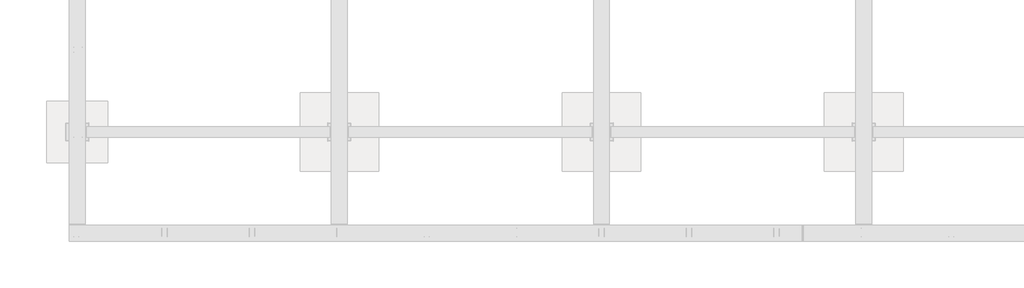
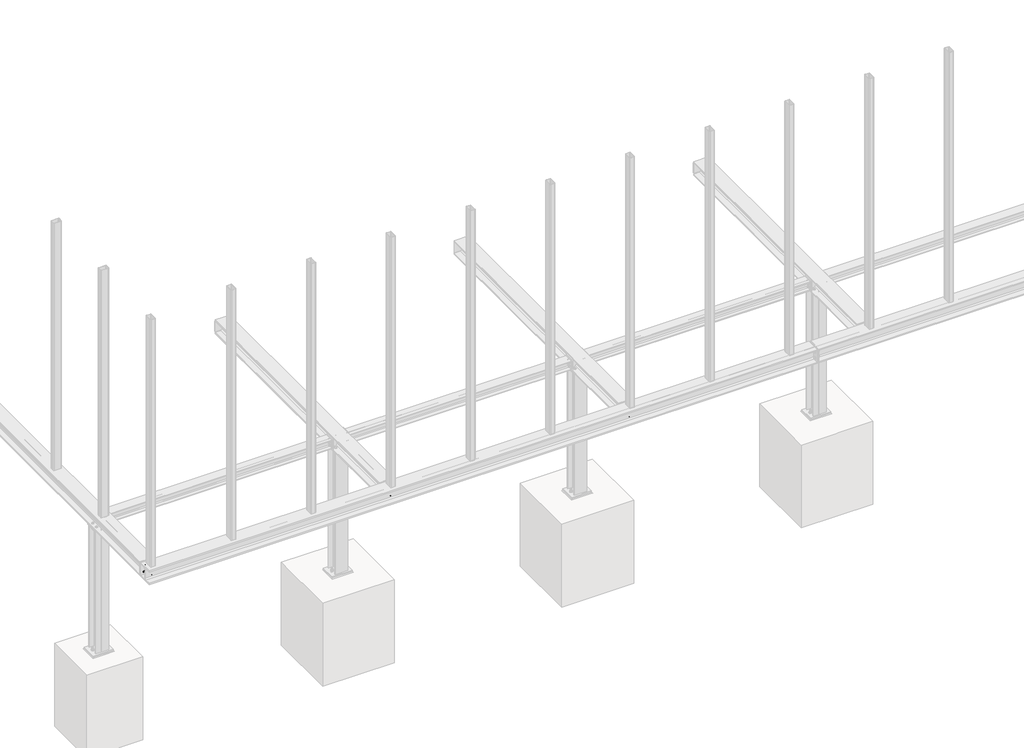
# One storey, part 20 of 31: 2 assemblies.
"""IFC4 building model written with IfcOpenShell, lengths in millimetres."""

from ifc_helpers import new_model, si_unit, point, frame, frame_2d, origin, place, context, project, spatial, polyline, circle_curve, trimmed, segment, composite_curve, outline, extrude, element, save

model = new_model("IFC4")

# Units and contexts
model_context = context("Model", 3, world=origin())
ifc_project = project(units=[si_unit("LENGTHUNIT", "METRE", prefix="MILLI")], contexts=[model_context])

# Site, building, storey
site = spatial("IfcSite", under=ifc_project)
building = spatial("IfcBuilding", under=site)
storey = spatial("IfcBuildingStorey", under=building, Name="Základy", Elevation=-1200.0)

# Assemblies
placement = place(None, origin())
element("IfcElementAssembly", 1, at=placement, inside=storey, context=model_context, shape_type="SweptSolid", body=[
    extrude(outline(composite_curve([segment(polyline([(5073.6, 60.0), (5026.4, 60.0)]), True, "CONTINUOUS"), segment(trimmed(circle_curve(frame_2d((5026.4, 66.4)), 6.4), [point((5026.4, 60.0))], [point((5020.0, 66.4))], False, "CARTESIAN"), True, "CONTINUOUS"), segment(polyline([(5020.0, 66.4), (5020.0, 153.6)]), True, "CONTINUOUS"), segment(trimmed(circle_curve(frame_2d((5026.4, 153.6)), 6.4), [point((5020.0, 153.6))], [point((5026.4, 160.0))], False, "CARTESIAN"), True, "CONTINUOUS"), segment(polyline([(5026.4, 160.0), (5073.6, 160.0)]), True, "CONTINUOUS"), segment(trimmed(circle_curve(frame_2d((5073.6, 153.6)), 6.4), [point((5073.6, 160.0))], [point((5080.0, 153.6))], False, "CARTESIAN"), True, "CONTINUOUS"), segment(polyline([(5080.0, 153.6), (5080.0, 66.4)]), True, "CONTINUOUS"), segment(trimmed(circle_curve(frame_2d((5073.6, 66.4)), 6.4), [point((5080.0, 66.4))], [point((5073.6, 60.0))], False, "CARTESIAN"), True, "CONTINUOUS")], self_intersect=False), holes=[composite_curve([segment(trimmed(circle_curve(frame_2d((5073.6, 66.4)), 3.2), [point((5073.6, 63.2))], [point((5076.8, 66.4))], True, "CARTESIAN"), True, "CONTINUOUS"), segment(polyline([(5076.8, 66.4), (5076.8, 153.6)]), True, "CONTINUOUS"), segment(trimmed(circle_curve(frame_2d((5073.6, 153.6)), 3.2), [point((5076.8, 153.6))], [point((5073.6, 156.8))], True, "CARTESIAN"), True, "CONTINUOUS"), segment(polyline([(5073.6, 156.8), (5026.4, 156.8)]), True, "CONTINUOUS"), segment(trimmed(circle_curve(frame_2d((5026.4, 153.6)), 3.2), [point((5026.4, 156.8))], [point((5023.2, 153.6))], True, "CARTESIAN"), True, "CONTINUOUS"), segment(polyline([(5023.2, 153.6), (5023.2, 66.4)]), True, "CONTINUOUS"), segment(trimmed(circle_curve(frame_2d((5026.4, 66.4)), 3.2), [point((5023.2, 66.4))], [point((5026.4, 63.2))], True, "CARTESIAN"), True, "CONTINUOUS"), segment(polyline([(5026.4, 63.2), (5073.6, 63.2)]), True, "CONTINUOUS")], self_intersect=False)]), frame((0.0, 0.0, -160.0), z_axis=(0.0, 0.0, 1.0), x_axis=(1.0, 0.0, 0.0)), (0.0, 0.0, 1.0), 3320.0),
])
element("IfcElementAssembly", 2, at=placement, inside=storey, context=model_context, shape_type="SweptSolid", body=[
    extrude(outline(composite_curve([segment(polyline([(10.0, -160.0), (190.0, -160.0), (190.0, -174.0), (119.25, -174.0)]), True, "CONTINUOUS"), segment(trimmed(circle_curve(frame_2d((119.25, -189.0)), 15.0), [point((119.25, -174.0))], [point((104.25, -189.0))], True, "CARTESIAN"), True, "CONTINUOUS"), segment(polyline([(104.25, -189.0), (104.25, -311.0)]), True, "CONTINUOUS"), segment(trimmed(circle_curve(frame_2d((119.25, -311.0)), 15.0), [point((104.25, -311.0))], [point((119.25, -326.0))], True, "CARTESIAN"), True, "CONTINUOUS"), segment(polyline([(119.25, -326.0), (190.0, -326.0), (190.0, -340.0), (10.0, -340.0), (10.0, -326.0), (80.75, -326.0)]), True, "CONTINUOUS"), segment(trimmed(circle_curve(frame_2d((80.75, -311.0)), 15.0), [point((80.75, -326.0))], [point((95.75, -311.0))], True, "CARTESIAN"), True, "CONTINUOUS"), segment(polyline([(95.75, -311.0), (95.75, -189.0)]), True, "CONTINUOUS"), segment(trimmed(circle_curve(frame_2d((80.75, -189.0)), 15.0), [point((95.75, -189.0))], [point((80.75, -174.0))], True, "CARTESIAN"), True, "CONTINUOUS"), segment(polyline([(80.75, -174.0), (10.0, -174.0), (10.0, -160.0)]), True, "CONTINUOUS")], self_intersect=False)), frame((-40.0, 0.0, 0.0), z_axis=(1.0, 0.0, 0.0), x_axis=(0.0, 1.0, 0.0)), (0.0, 0.0, 1.0), 8380.0),
    extrude(outline(composite_curve([segment(polyline([(190.0, -174.0), (190.0, -326.0), (124.25, -326.0)]), True, "CONTINUOUS"), segment(trimmed(circle_curve(frame_2d((104.25, -326.0)), 20.0), [point((124.25, -326.0))], [point((104.25, -306.0))], True, "CARTESIAN"), True, "CONTINUOUS"), segment(polyline([(104.25, -306.0), (104.25, -194.0)]), True, "CONTINUOUS"), segment(trimmed(circle_curve(frame_2d((104.25, -174.0)), 20.0), [point((104.25, -194.0))], [point((124.25, -174.0))], True, "CARTESIAN"), True, "CONTINUOUS"), segment(polyline([(124.25, -174.0), (190.0, -174.0)]), True, "CONTINUOUS")], self_intersect=False)), frame((3046.0, 0.0, 0.0), z_axis=(1.0, 0.0, 0.0), x_axis=(0.0, 1.0, 0.0)), (0.0, 0.0, 1.0), 8.0),
    extrude(outline(polyline([(2960.0, 200.0), (3140.0, 200.0), (3140.0, 190.0), (2960.0, 190.0), (2960.0, 200.0)])), frame((0.0, 0.0, -332.0), z_axis=(0.0, 0.0, 1.0), x_axis=(1.0, 0.0, 0.0)), (0.0, 0.0, 1.0), 164.0),
    extrude(outline(composite_curve([segment(polyline([(190.0, -174.0), (190.0, -326.0), (124.25, -326.0)]), True, "CONTINUOUS"), segment(trimmed(circle_curve(frame_2d((104.25, -326.0)), 20.0), [point((124.25, -326.0))], [point((104.25, -306.0))], True, "CARTESIAN"), True, "CONTINUOUS"), segment(polyline([(104.25, -306.0), (104.25, -194.0)]), True, "CONTINUOUS"), segment(trimmed(circle_curve(frame_2d((104.25, -174.0)), 20.0), [point((104.25, -194.0))], [point((124.25, -174.0))], True, "CARTESIAN"), True, "CONTINUOUS"), segment(polyline([(124.25, -174.0), (190.0, -174.0)]), True, "CONTINUOUS")], self_intersect=False)), frame((46.0, 0.0, 0.0), z_axis=(1.0, 0.0, 0.0), x_axis=(0.0, 1.0, 0.0)), (0.0, 0.0, 1.0), 8.0),
    extrude(outline(polyline([(-40.0, 200.0), (140.0, 200.0), (140.0, 190.0), (-40.0, 190.0), (-40.0, 200.0)])), frame((0.0, 0.0, -332.0), z_axis=(0.0, 0.0, 1.0), x_axis=(1.0, 0.0, 0.0)), (0.0, 0.0, 1.0), 164.0),
    extrude(outline(composite_curve([segment(polyline([(190.0, -174.0), (190.0, -326.0), (124.25, -326.0)]), True, "CONTINUOUS"), segment(trimmed(circle_curve(frame_2d((104.25, -326.0)), 20.0), [point((124.25, -326.0))], [point((104.25, -306.0))], True, "CARTESIAN"), True, "CONTINUOUS"), segment(polyline([(104.25, -306.0), (104.25, -194.0)]), True, "CONTINUOUS"), segment(trimmed(circle_curve(frame_2d((104.25, -174.0)), 20.0), [point((104.25, -194.0))], [point((124.25, -174.0))], True, "CARTESIAN"), True, "CONTINUOUS"), segment(polyline([(124.25, -174.0), (190.0, -174.0)]), True, "CONTINUOUS")], self_intersect=False)), frame((6046.0, 0.0, 0.0), z_axis=(1.0, 0.0, 0.0), x_axis=(0.0, 1.0, 0.0)), (0.0, 0.0, 1.0), 8.0),
    extrude(outline(polyline([(5960.0, 200.0), (6140.0, 200.0), (6140.0, 190.0), (5960.0, 190.0), (5960.0, 200.0)])), frame((0.0, 0.0, -332.0), z_axis=(0.0, 0.0, 1.0), x_axis=(1.0, 0.0, 0.0)), (0.0, 0.0, 1.0), 164.0),
    extrude(outline(polyline([(8350.0, 190.0), (8350.0, 10.0), (8340.0, 10.0), (8340.0, 190.0), (8350.0, 190.0)])), frame((0.0, 0.0, -332.0), z_axis=(0.0, 0.0, 1.0), x_axis=(1.0, 0.0, 0.0)), (0.0, 0.0, 1.0), 164.0),
    extrude(outline(composite_curve([segment(trimmed(circle_curve(frame_2d((-290.0, 3005.0)), 9.0), [point((-290.0, 3014.0))], [point((-290.0, 2996.0))], False, "CARTESIAN"), True, "CONTINUOUS"), segment(trimmed(circle_curve(frame_2d((-290.0, 3005.0)), 9.0), [point((-290.0, 2996.0))], [point((-290.0, 3014.0))], False, "CARTESIAN"), True, "CONTINUOUS")], self_intersect=False)), frame((0.0, 190.1, 0.0), z_axis=(0.0, 1.0, 0.0), x_axis=(0.0, 0.0, 1.0)), (0.0, 0.0, 1.0), 10.0),
    extrude(outline(polyline([(-290.0, 3018.8564065), (-278.0, 3011.9282032), (-278.0, 2998.0717968), (-290.0, 2991.1435935), (-302.0, 2998.0717968), (-302.0, 3011.9282032), (-290.0, 3018.8564065)])), frame((0.0, 177.0, 0.0), z_axis=(0.0, 1.0, 0.0), x_axis=(0.0, 0.0, 1.0)), (0.0, 0.0, 1.0), 10.0),
    extrude(outline(composite_curve([segment(trimmed(circle_curve(frame_2d((-290.0, 3005.0)), 8.0), [point((-290.0, 3013.0))], [point((-290.0, 2997.0))], False, "CARTESIAN"), True, "CONTINUOUS"), segment(trimmed(circle_curve(frame_2d((-290.0, 3005.0)), 8.0), [point((-290.0, 2997.0))], [point((-290.0, 3013.0))], False, "CARTESIAN"), True, "CONTINUOUS")], self_intersect=False)), frame((0.0, 187.0, 0.0), z_axis=(0.0, 1.0, 0.0), x_axis=(0.0, 0.0, 1.0)), (0.0, 0.0, 1.0), 50.0),
    extrude(outline(composite_curve([segment(trimmed(circle_curve(frame_2d((-290.0, 3005.0)), 15.0), [point((-290.0, 3020.0))], [point((-290.0, 2990.0))], False, "CARTESIAN"), True, "CONTINUOUS"), segment(trimmed(circle_curve(frame_2d((-290.0, 3005.0)), 15.0), [point((-290.0, 2990.0))], [point((-290.0, 3020.0))], False, "CARTESIAN"), True, "CONTINUOUS")], self_intersect=False)), frame((0.0, 187.0, 0.0), z_axis=(0.0, 1.0, 0.0), x_axis=(0.0, 0.0, 1.0)), (0.0, 0.0, 1.0), 3.0),
    extrude(outline(composite_curve([segment(trimmed(circle_curve(frame_2d((-290.0, 3005.0)), 15.0), [point((-290.0, 3020.0))], [point((-290.0, 2990.0))], False, "CARTESIAN"), True, "CONTINUOUS"), segment(trimmed(circle_curve(frame_2d((-290.0, 3005.0)), 15.0), [point((-290.0, 2990.0))], [point((-290.0, 3020.0))], False, "CARTESIAN"), True, "CONTINUOUS")], self_intersect=False)), frame((0.0, 210.0, 0.0), z_axis=(0.0, 1.0, 0.0), x_axis=(0.0, 0.0, 1.0)), (0.0, 0.0, 1.0), 3.0),
    extrude(outline(polyline([(-290.0, 3020.4441197), (-276.625, 3012.7220599), (-276.625, 2997.2779401), (-290.0, 2989.5558803), (-303.375, 2997.2779401), (-303.375, 3012.7220599), (-290.0, 3020.4441197)])), frame((0.0, 213.0, 0.0), z_axis=(0.0, 1.0, 0.0), x_axis=(0.0, 0.0, 1.0)), (0.0, 0.0, 1.0), 13.0),
    extrude(outline(composite_curve([segment(trimmed(circle_curve(frame_2d((-290.0, 3005.0)), 9.0), [point((-290.0, 3014.0))], [point((-290.0, 2996.0))], False, "CARTESIAN"), True, "CONTINUOUS"), segment(trimmed(circle_curve(frame_2d((-290.0, 3005.0)), 9.0), [point((-290.0, 2996.0))], [point((-290.0, 3014.0))], False, "CARTESIAN"), True, "CONTINUOUS")], self_intersect=False)), frame((0.0, 199.9, 0.0), z_axis=(0.0, 1.0, 0.0), x_axis=(0.0, 0.0, 1.0)), (0.0, 0.0, 1.0), 10.1),
    extrude(outline(composite_curve([segment(trimmed(circle_curve(frame_2d((-290.0, 3095.0)), 9.0), [point((-290.0, 3104.0))], [point((-290.0, 3086.0))], False, "CARTESIAN"), True, "CONTINUOUS"), segment(trimmed(circle_curve(frame_2d((-290.0, 3095.0)), 9.0), [point((-290.0, 3086.0))], [point((-290.0, 3104.0))], False, "CARTESIAN"), True, "CONTINUOUS")], self_intersect=False)), frame((0.0, 190.1, 0.0), z_axis=(0.0, 1.0, 0.0), x_axis=(0.0, 0.0, 1.0)), (0.0, 0.0, 1.0), 10.0),
    extrude(outline(polyline([(-290.0, 3108.8564065), (-278.0, 3101.9282032), (-278.0, 3088.0717968), (-290.0, 3081.1435935), (-302.0, 3088.0717968), (-302.0, 3101.9282032), (-290.0, 3108.8564065)])), frame((0.0, 177.0, 0.0), z_axis=(0.0, 1.0, 0.0), x_axis=(0.0, 0.0, 1.0)), (0.0, 0.0, 1.0), 10.0),
    extrude(outline(composite_curve([segment(trimmed(circle_curve(frame_2d((-290.0, 3095.0)), 8.0), [point((-290.0, 3103.0))], [point((-290.0, 3087.0))], False, "CARTESIAN"), True, "CONTINUOUS"), segment(trimmed(circle_curve(frame_2d((-290.0, 3095.0)), 8.0), [point((-290.0, 3087.0))], [point((-290.0, 3103.0))], False, "CARTESIAN"), True, "CONTINUOUS")], self_intersect=False)), frame((0.0, 187.0, 0.0), z_axis=(0.0, 1.0, 0.0), x_axis=(0.0, 0.0, 1.0)), (0.0, 0.0, 1.0), 50.0),
    extrude(outline(composite_curve([segment(trimmed(circle_curve(frame_2d((-290.0, 3095.0)), 15.0), [point((-290.0, 3110.0))], [point((-290.0, 3080.0))], False, "CARTESIAN"), True, "CONTINUOUS"), segment(trimmed(circle_curve(frame_2d((-290.0, 3095.0)), 15.0), [point((-290.0, 3080.0))], [point((-290.0, 3110.0))], False, "CARTESIAN"), True, "CONTINUOUS")], self_intersect=False)), frame((0.0, 187.0, 0.0), z_axis=(0.0, 1.0, 0.0), x_axis=(0.0, 0.0, 1.0)), (0.0, 0.0, 1.0), 3.0),
    extrude(outline(composite_curve([segment(trimmed(circle_curve(frame_2d((-290.0, 3095.0)), 15.0), [point((-290.0, 3110.0))], [point((-290.0, 3080.0))], False, "CARTESIAN"), True, "CONTINUOUS"), segment(trimmed(circle_curve(frame_2d((-290.0, 3095.0)), 15.0), [point((-290.0, 3080.0))], [point((-290.0, 3110.0))], False, "CARTESIAN"), True, "CONTINUOUS")], self_intersect=False)), frame((0.0, 210.0, 0.0), z_axis=(0.0, 1.0, 0.0), x_axis=(0.0, 0.0, 1.0)), (0.0, 0.0, 1.0), 3.0),
    extrude(outline(polyline([(-290.0, 3110.4441197), (-276.625, 3102.7220599), (-276.625, 3087.2779401), (-290.0, 3079.5558803), (-303.375, 3087.2779401), (-303.375, 3102.7220599), (-290.0, 3110.4441197)])), frame((0.0, 213.0, 0.0), z_axis=(0.0, 1.0, 0.0), x_axis=(0.0, 0.0, 1.0)), (0.0, 0.0, 1.0), 13.0),
    extrude(outline(composite_curve([segment(trimmed(circle_curve(frame_2d((-290.0, 3095.0)), 9.0), [point((-290.0, 3104.0))], [point((-290.0, 3086.0))], False, "CARTESIAN"), True, "CONTINUOUS"), segment(trimmed(circle_curve(frame_2d((-290.0, 3095.0)), 9.0), [point((-290.0, 3086.0))], [point((-290.0, 3104.0))], False, "CARTESIAN"), True, "CONTINUOUS")], self_intersect=False)), frame((0.0, 199.9, 0.0), z_axis=(0.0, 1.0, 0.0), x_axis=(0.0, 0.0, 1.0)), (0.0, 0.0, 1.0), 10.1),
    extrude(outline(composite_curve([segment(trimmed(circle_curve(frame_2d((-210.0, 3005.0)), 9.0), [point((-210.0, 3014.0))], [point((-210.0, 2996.0))], False, "CARTESIAN"), True, "CONTINUOUS"), segment(trimmed(circle_curve(frame_2d((-210.0, 3005.0)), 9.0), [point((-210.0, 2996.0))], [point((-210.0, 3014.0))], False, "CARTESIAN"), True, "CONTINUOUS")], self_intersect=False)), frame((0.0, 190.1, 0.0), z_axis=(0.0, 1.0, 0.0), x_axis=(0.0, 0.0, 1.0)), (0.0, 0.0, 1.0), 10.0),
    extrude(outline(polyline([(-210.0, 3018.8564065), (-198.0, 3011.9282032), (-198.0, 2998.0717968), (-210.0, 2991.1435935), (-222.0, 2998.0717968), (-222.0, 3011.9282032), (-210.0, 3018.8564065)])), frame((0.0, 177.0, 0.0), z_axis=(0.0, 1.0, 0.0), x_axis=(0.0, 0.0, 1.0)), (0.0, 0.0, 1.0), 10.0),
    extrude(outline(composite_curve([segment(trimmed(circle_curve(frame_2d((-210.0, 3005.0)), 8.0), [point((-210.0, 3013.0))], [point((-210.0, 2997.0))], False, "CARTESIAN"), True, "CONTINUOUS"), segment(trimmed(circle_curve(frame_2d((-210.0, 3005.0)), 8.0), [point((-210.0, 2997.0))], [point((-210.0, 3013.0))], False, "CARTESIAN"), True, "CONTINUOUS")], self_intersect=False)), frame((0.0, 187.0, 0.0), z_axis=(0.0, 1.0, 0.0), x_axis=(0.0, 0.0, 1.0)), (0.0, 0.0, 1.0), 50.0),
    extrude(outline(composite_curve([segment(trimmed(circle_curve(frame_2d((-210.0, 3005.0)), 15.0), [point((-210.0, 3020.0))], [point((-210.0, 2990.0))], False, "CARTESIAN"), True, "CONTINUOUS"), segment(trimmed(circle_curve(frame_2d((-210.0, 3005.0)), 15.0), [point((-210.0, 2990.0))], [point((-210.0, 3020.0))], False, "CARTESIAN"), True, "CONTINUOUS")], self_intersect=False)), frame((0.0, 187.0, 0.0), z_axis=(0.0, 1.0, 0.0), x_axis=(0.0, 0.0, 1.0)), (0.0, 0.0, 1.0), 3.0),
    extrude(outline(composite_curve([segment(trimmed(circle_curve(frame_2d((-210.0, 3005.0)), 15.0), [point((-210.0, 3020.0))], [point((-210.0, 2990.0))], False, "CARTESIAN"), True, "CONTINUOUS"), segment(trimmed(circle_curve(frame_2d((-210.0, 3005.0)), 15.0), [point((-210.0, 2990.0))], [point((-210.0, 3020.0))], False, "CARTESIAN"), True, "CONTINUOUS")], self_intersect=False)), frame((0.0, 210.0, 0.0), z_axis=(0.0, 1.0, 0.0), x_axis=(0.0, 0.0, 1.0)), (0.0, 0.0, 1.0), 3.0),
    extrude(outline(polyline([(-210.0, 3020.4441197), (-196.625, 3012.7220599), (-196.625, 2997.2779401), (-210.0, 2989.5558803), (-223.375, 2997.2779401), (-223.375, 3012.7220599), (-210.0, 3020.4441197)])), frame((0.0, 213.0, 0.0), z_axis=(0.0, 1.0, 0.0), x_axis=(0.0, 0.0, 1.0)), (0.0, 0.0, 1.0), 13.0),
    extrude(outline(composite_curve([segment(trimmed(circle_curve(frame_2d((-210.0, 3005.0)), 9.0), [point((-210.0, 3014.0))], [point((-210.0, 2996.0))], False, "CARTESIAN"), True, "CONTINUOUS"), segment(trimmed(circle_curve(frame_2d((-210.0, 3005.0)), 9.0), [point((-210.0, 2996.0))], [point((-210.0, 3014.0))], False, "CARTESIAN"), True, "CONTINUOUS")], self_intersect=False)), frame((0.0, 199.9, 0.0), z_axis=(0.0, 1.0, 0.0), x_axis=(0.0, 0.0, 1.0)), (0.0, 0.0, 1.0), 10.1),
    extrude(outline(composite_curve([segment(trimmed(circle_curve(frame_2d((-210.0, 3095.0)), 9.0), [point((-210.0, 3104.0))], [point((-210.0, 3086.0))], False, "CARTESIAN"), True, "CONTINUOUS"), segment(trimmed(circle_curve(frame_2d((-210.0, 3095.0)), 9.0), [point((-210.0, 3086.0))], [point((-210.0, 3104.0))], False, "CARTESIAN"), True, "CONTINUOUS")], self_intersect=False)), frame((0.0, 190.1, 0.0), z_axis=(0.0, 1.0, 0.0), x_axis=(0.0, 0.0, 1.0)), (0.0, 0.0, 1.0), 10.0),
    extrude(outline(polyline([(-210.0, 3108.8564065), (-198.0, 3101.9282032), (-198.0, 3088.0717968), (-210.0, 3081.1435935), (-222.0, 3088.0717968), (-222.0, 3101.9282032), (-210.0, 3108.8564065)])), frame((0.0, 177.0, 0.0), z_axis=(0.0, 1.0, 0.0), x_axis=(0.0, 0.0, 1.0)), (0.0, 0.0, 1.0), 10.0),
    extrude(outline(composite_curve([segment(trimmed(circle_curve(frame_2d((-210.0, 3095.0)), 8.0), [point((-210.0, 3103.0))], [point((-210.0, 3087.0))], False, "CARTESIAN"), True, "CONTINUOUS"), segment(trimmed(circle_curve(frame_2d((-210.0, 3095.0)), 8.0), [point((-210.0, 3087.0))], [point((-210.0, 3103.0))], False, "CARTESIAN"), True, "CONTINUOUS")], self_intersect=False)), frame((0.0, 187.0, 0.0), z_axis=(0.0, 1.0, 0.0), x_axis=(0.0, 0.0, 1.0)), (0.0, 0.0, 1.0), 50.0),
    extrude(outline(composite_curve([segment(trimmed(circle_curve(frame_2d((-210.0, 3095.0)), 15.0), [point((-210.0, 3110.0))], [point((-210.0, 3080.0))], False, "CARTESIAN"), True, "CONTINUOUS"), segment(trimmed(circle_curve(frame_2d((-210.0, 3095.0)), 15.0), [point((-210.0, 3080.0))], [point((-210.0, 3110.0))], False, "CARTESIAN"), True, "CONTINUOUS")], self_intersect=False)), frame((0.0, 187.0, 0.0), z_axis=(0.0, 1.0, 0.0), x_axis=(0.0, 0.0, 1.0)), (0.0, 0.0, 1.0), 3.0),
    extrude(outline(composite_curve([segment(trimmed(circle_curve(frame_2d((-210.0, 3095.0)), 15.0), [point((-210.0, 3110.0))], [point((-210.0, 3080.0))], False, "CARTESIAN"), True, "CONTINUOUS"), segment(trimmed(circle_curve(frame_2d((-210.0, 3095.0)), 15.0), [point((-210.0, 3080.0))], [point((-210.0, 3110.0))], False, "CARTESIAN"), True, "CONTINUOUS")], self_intersect=False)), frame((0.0, 210.0, 0.0), z_axis=(0.0, 1.0, 0.0), x_axis=(0.0, 0.0, 1.0)), (0.0, 0.0, 1.0), 3.0),
    extrude(outline(polyline([(-210.0, 3110.4441197), (-196.625, 3102.7220599), (-196.625, 3087.2779401), (-210.0, 3079.5558803), (-223.375, 3087.2779401), (-223.375, 3102.7220599), (-210.0, 3110.4441197)])), frame((0.0, 213.0, 0.0), z_axis=(0.0, 1.0, 0.0), x_axis=(0.0, 0.0, 1.0)), (0.0, 0.0, 1.0), 13.0),
    extrude(outline(composite_curve([segment(trimmed(circle_curve(frame_2d((-210.0, 3095.0)), 9.0), [point((-210.0, 3104.0))], [point((-210.0, 3086.0))], False, "CARTESIAN"), True, "CONTINUOUS"), segment(trimmed(circle_curve(frame_2d((-210.0, 3095.0)), 9.0), [point((-210.0, 3086.0))], [point((-210.0, 3104.0))], False, "CARTESIAN"), True, "CONTINUOUS")], self_intersect=False)), frame((0.0, 199.9, 0.0), z_axis=(0.0, 1.0, 0.0), x_axis=(0.0, 0.0, 1.0)), (0.0, 0.0, 1.0), 10.1),
    extrude(outline(composite_curve([segment(trimmed(circle_curve(frame_2d((-290.0, 5.0)), 9.0), [point((-290.0, 14.0))], [point((-290.0, -4.0))], False, "CARTESIAN"), True, "CONTINUOUS"), segment(trimmed(circle_curve(frame_2d((-290.0, 5.0)), 9.0), [point((-290.0, -4.0))], [point((-290.0, 14.0))], False, "CARTESIAN"), True, "CONTINUOUS")], self_intersect=False)), frame((0.0, 190.1, 0.0), z_axis=(0.0, 1.0, 0.0), x_axis=(0.0, 0.0, 1.0)), (0.0, 0.0, 1.0), 10.0),
    extrude(outline(polyline([(-290.0, 18.8564065), (-278.0, 11.9282032), (-278.0, -1.9282032), (-290.0, -8.8564065), (-302.0, -1.9282032), (-302.0, 11.9282032), (-290.0, 18.8564065)])), frame((0.0, 177.0, 0.0), z_axis=(0.0, 1.0, 0.0), x_axis=(0.0, 0.0, 1.0)), (0.0, 0.0, 1.0), 10.0),
    extrude(outline(composite_curve([segment(trimmed(circle_curve(frame_2d((-290.0, 5.0)), 8.0), [point((-290.0, 13.0))], [point((-290.0, -3.0))], False, "CARTESIAN"), True, "CONTINUOUS"), segment(trimmed(circle_curve(frame_2d((-290.0, 5.0)), 8.0), [point((-290.0, -3.0))], [point((-290.0, 13.0))], False, "CARTESIAN"), True, "CONTINUOUS")], self_intersect=False)), frame((0.0, 187.0, 0.0), z_axis=(0.0, 1.0, 0.0), x_axis=(0.0, 0.0, 1.0)), (0.0, 0.0, 1.0), 50.0),
    extrude(outline(composite_curve([segment(trimmed(circle_curve(frame_2d((-290.0, 5.0)), 15.0), [point((-290.0, 20.0))], [point((-290.0, -10.0))], False, "CARTESIAN"), True, "CONTINUOUS"), segment(trimmed(circle_curve(frame_2d((-290.0, 5.0)), 15.0), [point((-290.0, -10.0))], [point((-290.0, 20.0))], False, "CARTESIAN"), True, "CONTINUOUS")], self_intersect=False)), frame((0.0, 187.0, 0.0), z_axis=(0.0, 1.0, 0.0), x_axis=(0.0, 0.0, 1.0)), (0.0, 0.0, 1.0), 3.0),
    extrude(outline(composite_curve([segment(trimmed(circle_curve(frame_2d((-290.0, 5.0)), 15.0), [point((-290.0, 20.0))], [point((-290.0, -10.0))], False, "CARTESIAN"), True, "CONTINUOUS"), segment(trimmed(circle_curve(frame_2d((-290.0, 5.0)), 15.0), [point((-290.0, -10.0))], [point((-290.0, 20.0))], False, "CARTESIAN"), True, "CONTINUOUS")], self_intersect=False)), frame((0.0, 210.0, 0.0), z_axis=(0.0, 1.0, 0.0), x_axis=(0.0, 0.0, 1.0)), (0.0, 0.0, 1.0), 3.0),
    extrude(outline(polyline([(-290.0, 20.4441197), (-276.625, 12.7220599), (-276.625, -2.7220599), (-290.0, -10.4441197), (-303.375, -2.7220599), (-303.375, 12.7220599), (-290.0, 20.4441197)])), frame((0.0, 213.0, 0.0), z_axis=(0.0, 1.0, 0.0), x_axis=(0.0, 0.0, 1.0)), (0.0, 0.0, 1.0), 13.0),
    extrude(outline(composite_curve([segment(trimmed(circle_curve(frame_2d((-290.0, 5.0)), 9.0), [point((-290.0, 14.0))], [point((-290.0, -4.0))], False, "CARTESIAN"), True, "CONTINUOUS"), segment(trimmed(circle_curve(frame_2d((-290.0, 5.0)), 9.0), [point((-290.0, -4.0))], [point((-290.0, 14.0))], False, "CARTESIAN"), True, "CONTINUOUS")], self_intersect=False)), frame((0.0, 199.9, 0.0), z_axis=(0.0, 1.0, 0.0), x_axis=(0.0, 0.0, 1.0)), (0.0, 0.0, 1.0), 10.1),
    extrude(outline(composite_curve([segment(trimmed(circle_curve(frame_2d((-290.0, 95.0)), 9.0), [point((-290.0, 104.0))], [point((-290.0, 86.0))], False, "CARTESIAN"), True, "CONTINUOUS"), segment(trimmed(circle_curve(frame_2d((-290.0, 95.0)), 9.0), [point((-290.0, 86.0))], [point((-290.0, 104.0))], False, "CARTESIAN"), True, "CONTINUOUS")], self_intersect=False)), frame((0.0, 190.1, 0.0), z_axis=(0.0, 1.0, 0.0), x_axis=(0.0, 0.0, 1.0)), (0.0, 0.0, 1.0), 10.0),
    extrude(outline(polyline([(-290.0, 108.8564065), (-278.0, 101.9282032), (-278.0, 88.0717968), (-290.0, 81.1435935), (-302.0, 88.0717968), (-302.0, 101.9282032), (-290.0, 108.8564065)])), frame((0.0, 177.0, 0.0), z_axis=(0.0, 1.0, 0.0), x_axis=(0.0, 0.0, 1.0)), (0.0, 0.0, 1.0), 10.0),
    extrude(outline(composite_curve([segment(trimmed(circle_curve(frame_2d((-290.0, 95.0)), 8.0), [point((-290.0, 103.0))], [point((-290.0, 87.0))], False, "CARTESIAN"), True, "CONTINUOUS"), segment(trimmed(circle_curve(frame_2d((-290.0, 95.0)), 8.0), [point((-290.0, 87.0))], [point((-290.0, 103.0))], False, "CARTESIAN"), True, "CONTINUOUS")], self_intersect=False)), frame((0.0, 187.0, 0.0), z_axis=(0.0, 1.0, 0.0), x_axis=(0.0, 0.0, 1.0)), (0.0, 0.0, 1.0), 50.0),
    extrude(outline(composite_curve([segment(trimmed(circle_curve(frame_2d((-290.0, 95.0)), 15.0), [point((-290.0, 110.0))], [point((-290.0, 80.0))], False, "CARTESIAN"), True, "CONTINUOUS"), segment(trimmed(circle_curve(frame_2d((-290.0, 95.0)), 15.0), [point((-290.0, 80.0))], [point((-290.0, 110.0))], False, "CARTESIAN"), True, "CONTINUOUS")], self_intersect=False)), frame((0.0, 187.0, 0.0), z_axis=(0.0, 1.0, 0.0), x_axis=(0.0, 0.0, 1.0)), (0.0, 0.0, 1.0), 3.0),
    extrude(outline(composite_curve([segment(trimmed(circle_curve(frame_2d((-290.0, 95.0)), 15.0), [point((-290.0, 110.0))], [point((-290.0, 80.0))], False, "CARTESIAN"), True, "CONTINUOUS"), segment(trimmed(circle_curve(frame_2d((-290.0, 95.0)), 15.0), [point((-290.0, 80.0))], [point((-290.0, 110.0))], False, "CARTESIAN"), True, "CONTINUOUS")], self_intersect=False)), frame((0.0, 210.0, 0.0), z_axis=(0.0, 1.0, 0.0), x_axis=(0.0, 0.0, 1.0)), (0.0, 0.0, 1.0), 3.0),
    extrude(outline(polyline([(-290.0, 110.4441197), (-276.625, 102.7220599), (-276.625, 87.2779401), (-290.0, 79.5558803), (-303.375, 87.2779401), (-303.375, 102.7220599), (-290.0, 110.4441197)])), frame((0.0, 213.0, 0.0), z_axis=(0.0, 1.0, 0.0), x_axis=(0.0, 0.0, 1.0)), (0.0, 0.0, 1.0), 13.0),
    extrude(outline(composite_curve([segment(trimmed(circle_curve(frame_2d((-290.0, 95.0)), 9.0), [point((-290.0, 104.0))], [point((-290.0, 86.0))], False, "CARTESIAN"), True, "CONTINUOUS"), segment(trimmed(circle_curve(frame_2d((-290.0, 95.0)), 9.0), [point((-290.0, 86.0))], [point((-290.0, 104.0))], False, "CARTESIAN"), True, "CONTINUOUS")], self_intersect=False)), frame((0.0, 199.9, 0.0), z_axis=(0.0, 1.0, 0.0), x_axis=(0.0, 0.0, 1.0)), (0.0, 0.0, 1.0), 10.1),
    extrude(outline(composite_curve([segment(trimmed(circle_curve(frame_2d((-210.0, 5.0)), 9.0), [point((-210.0, 14.0))], [point((-210.0, -4.0))], False, "CARTESIAN"), True, "CONTINUOUS"), segment(trimmed(circle_curve(frame_2d((-210.0, 5.0)), 9.0), [point((-210.0, -4.0))], [point((-210.0, 14.0))], False, "CARTESIAN"), True, "CONTINUOUS")], self_intersect=False)), frame((0.0, 190.1, 0.0), z_axis=(0.0, 1.0, 0.0), x_axis=(0.0, 0.0, 1.0)), (0.0, 0.0, 1.0), 10.0),
    extrude(outline(polyline([(-210.0, 18.8564065), (-198.0, 11.9282032), (-198.0, -1.9282032), (-210.0, -8.8564065), (-222.0, -1.9282032), (-222.0, 11.9282032), (-210.0, 18.8564065)])), frame((0.0, 177.0, 0.0), z_axis=(0.0, 1.0, 0.0), x_axis=(0.0, 0.0, 1.0)), (0.0, 0.0, 1.0), 10.0),
    extrude(outline(composite_curve([segment(trimmed(circle_curve(frame_2d((-210.0, 5.0)), 8.0), [point((-210.0, 13.0))], [point((-210.0, -3.0))], False, "CARTESIAN"), True, "CONTINUOUS"), segment(trimmed(circle_curve(frame_2d((-210.0, 5.0)), 8.0), [point((-210.0, -3.0))], [point((-210.0, 13.0))], False, "CARTESIAN"), True, "CONTINUOUS")], self_intersect=False)), frame((0.0, 187.0, 0.0), z_axis=(0.0, 1.0, 0.0), x_axis=(0.0, 0.0, 1.0)), (0.0, 0.0, 1.0), 50.0),
    extrude(outline(composite_curve([segment(trimmed(circle_curve(frame_2d((-210.0, 5.0)), 15.0), [point((-210.0, 20.0))], [point((-210.0, -10.0))], False, "CARTESIAN"), True, "CONTINUOUS"), segment(trimmed(circle_curve(frame_2d((-210.0, 5.0)), 15.0), [point((-210.0, -10.0))], [point((-210.0, 20.0))], False, "CARTESIAN"), True, "CONTINUOUS")], self_intersect=False)), frame((0.0, 187.0, 0.0), z_axis=(0.0, 1.0, 0.0), x_axis=(0.0, 0.0, 1.0)), (0.0, 0.0, 1.0), 3.0),
    extrude(outline(composite_curve([segment(trimmed(circle_curve(frame_2d((-210.0, 5.0)), 15.0), [point((-210.0, 20.0))], [point((-210.0, -10.0))], False, "CARTESIAN"), True, "CONTINUOUS"), segment(trimmed(circle_curve(frame_2d((-210.0, 5.0)), 15.0), [point((-210.0, -10.0))], [point((-210.0, 20.0))], False, "CARTESIAN"), True, "CONTINUOUS")], self_intersect=False)), frame((0.0, 210.0, 0.0), z_axis=(0.0, 1.0, 0.0), x_axis=(0.0, 0.0, 1.0)), (0.0, 0.0, 1.0), 3.0),
    extrude(outline(polyline([(-210.0, 20.4441197), (-196.625, 12.7220599), (-196.625, -2.7220599), (-210.0, -10.4441197), (-223.375, -2.7220599), (-223.375, 12.7220599), (-210.0, 20.4441197)])), frame((0.0, 213.0, 0.0), z_axis=(0.0, 1.0, 0.0), x_axis=(0.0, 0.0, 1.0)), (0.0, 0.0, 1.0), 13.0),
    extrude(outline(composite_curve([segment(trimmed(circle_curve(frame_2d((-210.0, 5.0)), 9.0), [point((-210.0, 14.0))], [point((-210.0, -4.0))], False, "CARTESIAN"), True, "CONTINUOUS"), segment(trimmed(circle_curve(frame_2d((-210.0, 5.0)), 9.0), [point((-210.0, -4.0))], [point((-210.0, 14.0))], False, "CARTESIAN"), True, "CONTINUOUS")], self_intersect=False)), frame((0.0, 199.9, 0.0), z_axis=(0.0, 1.0, 0.0), x_axis=(0.0, 0.0, 1.0)), (0.0, 0.0, 1.0), 10.1),
    extrude(outline(composite_curve([segment(trimmed(circle_curve(frame_2d((-210.0, 95.0)), 9.0), [point((-210.0, 104.0))], [point((-210.0, 86.0))], False, "CARTESIAN"), True, "CONTINUOUS"), segment(trimmed(circle_curve(frame_2d((-210.0, 95.0)), 9.0), [point((-210.0, 86.0))], [point((-210.0, 104.0))], False, "CARTESIAN"), True, "CONTINUOUS")], self_intersect=False)), frame((0.0, 190.1, 0.0), z_axis=(0.0, 1.0, 0.0), x_axis=(0.0, 0.0, 1.0)), (0.0, 0.0, 1.0), 10.0),
    extrude(outline(polyline([(-210.0, 108.8564065), (-198.0, 101.9282032), (-198.0, 88.0717968), (-210.0, 81.1435935), (-222.0, 88.0717968), (-222.0, 101.9282032), (-210.0, 108.8564065)])), frame((0.0, 177.0, 0.0), z_axis=(0.0, 1.0, 0.0), x_axis=(0.0, 0.0, 1.0)), (0.0, 0.0, 1.0), 10.0),
    extrude(outline(composite_curve([segment(trimmed(circle_curve(frame_2d((-210.0, 95.0)), 8.0), [point((-210.0, 103.0))], [point((-210.0, 87.0))], False, "CARTESIAN"), True, "CONTINUOUS"), segment(trimmed(circle_curve(frame_2d((-210.0, 95.0)), 8.0), [point((-210.0, 87.0))], [point((-210.0, 103.0))], False, "CARTESIAN"), True, "CONTINUOUS")], self_intersect=False)), frame((0.0, 187.0, 0.0), z_axis=(0.0, 1.0, 0.0), x_axis=(0.0, 0.0, 1.0)), (0.0, 0.0, 1.0), 50.0),
    extrude(outline(composite_curve([segment(trimmed(circle_curve(frame_2d((-210.0, 95.0)), 15.0), [point((-210.0, 110.0))], [point((-210.0, 80.0))], False, "CARTESIAN"), True, "CONTINUOUS"), segment(trimmed(circle_curve(frame_2d((-210.0, 95.0)), 15.0), [point((-210.0, 80.0))], [point((-210.0, 110.0))], False, "CARTESIAN"), True, "CONTINUOUS")], self_intersect=False)), frame((0.0, 187.0, 0.0), z_axis=(0.0, 1.0, 0.0), x_axis=(0.0, 0.0, 1.0)), (0.0, 0.0, 1.0), 3.0),
    extrude(outline(composite_curve([segment(trimmed(circle_curve(frame_2d((-210.0, 95.0)), 15.0), [point((-210.0, 110.0))], [point((-210.0, 80.0))], False, "CARTESIAN"), True, "CONTINUOUS"), segment(trimmed(circle_curve(frame_2d((-210.0, 95.0)), 15.0), [point((-210.0, 80.0))], [point((-210.0, 110.0))], False, "CARTESIAN"), True, "CONTINUOUS")], self_intersect=False)), frame((0.0, 210.0, 0.0), z_axis=(0.0, 1.0, 0.0), x_axis=(0.0, 0.0, 1.0)), (0.0, 0.0, 1.0), 3.0),
    extrude(outline(polyline([(-210.0, 110.4441197), (-196.625, 102.7220599), (-196.625, 87.2779401), (-210.0, 79.5558803), (-223.375, 87.2779401), (-223.375, 102.7220599), (-210.0, 110.4441197)])), frame((0.0, 213.0, 0.0), z_axis=(0.0, 1.0, 0.0), x_axis=(0.0, 0.0, 1.0)), (0.0, 0.0, 1.0), 13.0),
    extrude(outline(composite_curve([segment(trimmed(circle_curve(frame_2d((-210.0, 95.0)), 9.0), [point((-210.0, 104.0))], [point((-210.0, 86.0))], False, "CARTESIAN"), True, "CONTINUOUS"), segment(trimmed(circle_curve(frame_2d((-210.0, 95.0)), 9.0), [point((-210.0, 86.0))], [point((-210.0, 104.0))], False, "CARTESIAN"), True, "CONTINUOUS")], self_intersect=False)), frame((0.0, 199.9, 0.0), z_axis=(0.0, 1.0, 0.0), x_axis=(0.0, 0.0, 1.0)), (0.0, 0.0, 1.0), 10.1),
    extrude(outline(composite_curve([segment(trimmed(circle_curve(frame_2d((-290.0, 6005.0)), 9.0), [point((-290.0, 6014.0))], [point((-290.0, 5996.0))], False, "CARTESIAN"), True, "CONTINUOUS"), segment(trimmed(circle_curve(frame_2d((-290.0, 6005.0)), 9.0), [point((-290.0, 5996.0))], [point((-290.0, 6014.0))], False, "CARTESIAN"), True, "CONTINUOUS")], self_intersect=False)), frame((0.0, 190.1, 0.0), z_axis=(0.0, 1.0, 0.0), x_axis=(0.0, 0.0, 1.0)), (0.0, 0.0, 1.0), 10.0),
    extrude(outline(polyline([(-290.0, 6018.8564065), (-278.0, 6011.9282032), (-278.0, 5998.0717968), (-290.0, 5991.1435935), (-302.0, 5998.0717968), (-302.0, 6011.9282032), (-290.0, 6018.8564065)])), frame((0.0, 177.0, 0.0), z_axis=(0.0, 1.0, 0.0), x_axis=(0.0, 0.0, 1.0)), (0.0, 0.0, 1.0), 10.0),
    extrude(outline(composite_curve([segment(trimmed(circle_curve(frame_2d((-290.0, 6005.0)), 8.0), [point((-290.0, 6013.0))], [point((-290.0, 5997.0))], False, "CARTESIAN"), True, "CONTINUOUS"), segment(trimmed(circle_curve(frame_2d((-290.0, 6005.0)), 8.0), [point((-290.0, 5997.0))], [point((-290.0, 6013.0))], False, "CARTESIAN"), True, "CONTINUOUS")], self_intersect=False)), frame((0.0, 187.0, 0.0), z_axis=(0.0, 1.0, 0.0), x_axis=(0.0, 0.0, 1.0)), (0.0, 0.0, 1.0), 50.0),
    extrude(outline(composite_curve([segment(trimmed(circle_curve(frame_2d((-290.0, 6005.0)), 15.0), [point((-290.0, 6020.0))], [point((-290.0, 5990.0))], False, "CARTESIAN"), True, "CONTINUOUS"), segment(trimmed(circle_curve(frame_2d((-290.0, 6005.0)), 15.0), [point((-290.0, 5990.0))], [point((-290.0, 6020.0))], False, "CARTESIAN"), True, "CONTINUOUS")], self_intersect=False)), frame((0.0, 187.0, 0.0), z_axis=(0.0, 1.0, 0.0), x_axis=(0.0, 0.0, 1.0)), (0.0, 0.0, 1.0), 3.0),
    extrude(outline(composite_curve([segment(trimmed(circle_curve(frame_2d((-290.0, 6005.0)), 15.0), [point((-290.0, 6020.0))], [point((-290.0, 5990.0))], False, "CARTESIAN"), True, "CONTINUOUS"), segment(trimmed(circle_curve(frame_2d((-290.0, 6005.0)), 15.0), [point((-290.0, 5990.0))], [point((-290.0, 6020.0))], False, "CARTESIAN"), True, "CONTINUOUS")], self_intersect=False)), frame((0.0, 210.0, 0.0), z_axis=(0.0, 1.0, 0.0), x_axis=(0.0, 0.0, 1.0)), (0.0, 0.0, 1.0), 3.0),
    extrude(outline(polyline([(-290.0, 6020.4441197), (-276.625, 6012.7220599), (-276.625, 5997.2779401), (-290.0, 5989.5558803), (-303.375, 5997.2779401), (-303.375, 6012.7220599), (-290.0, 6020.4441197)])), frame((0.0, 213.0, 0.0), z_axis=(0.0, 1.0, 0.0), x_axis=(0.0, 0.0, 1.0)), (0.0, 0.0, 1.0), 13.0),
    extrude(outline(composite_curve([segment(trimmed(circle_curve(frame_2d((-290.0, 6005.0)), 9.0), [point((-290.0, 6014.0))], [point((-290.0, 5996.0))], False, "CARTESIAN"), True, "CONTINUOUS"), segment(trimmed(circle_curve(frame_2d((-290.0, 6005.0)), 9.0), [point((-290.0, 5996.0))], [point((-290.0, 6014.0))], False, "CARTESIAN"), True, "CONTINUOUS")], self_intersect=False)), frame((0.0, 199.9, 0.0), z_axis=(0.0, 1.0, 0.0), x_axis=(0.0, 0.0, 1.0)), (0.0, 0.0, 1.0), 10.1),
    extrude(outline(composite_curve([segment(trimmed(circle_curve(frame_2d((-290.0, 6095.0)), 9.0), [point((-290.0, 6104.0))], [point((-290.0, 6086.0))], False, "CARTESIAN"), True, "CONTINUOUS"), segment(trimmed(circle_curve(frame_2d((-290.0, 6095.0)), 9.0), [point((-290.0, 6086.0))], [point((-290.0, 6104.0))], False, "CARTESIAN"), True, "CONTINUOUS")], self_intersect=False)), frame((0.0, 190.1, 0.0), z_axis=(0.0, 1.0, 0.0), x_axis=(0.0, 0.0, 1.0)), (0.0, 0.0, 1.0), 10.0),
    extrude(outline(polyline([(-290.0, 6108.8564065), (-278.0, 6101.9282032), (-278.0, 6088.0717968), (-290.0, 6081.1435935), (-302.0, 6088.0717968), (-302.0, 6101.9282032), (-290.0, 6108.8564065)])), frame((0.0, 177.0, 0.0), z_axis=(0.0, 1.0, 0.0), x_axis=(0.0, 0.0, 1.0)), (0.0, 0.0, 1.0), 10.0),
    extrude(outline(composite_curve([segment(trimmed(circle_curve(frame_2d((-290.0, 6095.0)), 8.0), [point((-290.0, 6103.0))], [point((-290.0, 6087.0))], False, "CARTESIAN"), True, "CONTINUOUS"), segment(trimmed(circle_curve(frame_2d((-290.0, 6095.0)), 8.0), [point((-290.0, 6087.0))], [point((-290.0, 6103.0))], False, "CARTESIAN"), True, "CONTINUOUS")], self_intersect=False)), frame((0.0, 187.0, 0.0), z_axis=(0.0, 1.0, 0.0), x_axis=(0.0, 0.0, 1.0)), (0.0, 0.0, 1.0), 50.0),
    extrude(outline(composite_curve([segment(trimmed(circle_curve(frame_2d((-290.0, 6095.0)), 15.0), [point((-290.0, 6110.0))], [point((-290.0, 6080.0))], False, "CARTESIAN"), True, "CONTINUOUS"), segment(trimmed(circle_curve(frame_2d((-290.0, 6095.0)), 15.0), [point((-290.0, 6080.0))], [point((-290.0, 6110.0))], False, "CARTESIAN"), True, "CONTINUOUS")], self_intersect=False)), frame((0.0, 187.0, 0.0), z_axis=(0.0, 1.0, 0.0), x_axis=(0.0, 0.0, 1.0)), (0.0, 0.0, 1.0), 3.0),
    extrude(outline(composite_curve([segment(trimmed(circle_curve(frame_2d((-290.0, 6095.0)), 15.0), [point((-290.0, 6110.0))], [point((-290.0, 6080.0))], False, "CARTESIAN"), True, "CONTINUOUS"), segment(trimmed(circle_curve(frame_2d((-290.0, 6095.0)), 15.0), [point((-290.0, 6080.0))], [point((-290.0, 6110.0))], False, "CARTESIAN"), True, "CONTINUOUS")], self_intersect=False)), frame((0.0, 210.0, 0.0), z_axis=(0.0, 1.0, 0.0), x_axis=(0.0, 0.0, 1.0)), (0.0, 0.0, 1.0), 3.0),
    extrude(outline(polyline([(-290.0, 6110.4441197), (-276.625, 6102.7220599), (-276.625, 6087.2779401), (-290.0, 6079.5558803), (-303.375, 6087.2779401), (-303.375, 6102.7220599), (-290.0, 6110.4441197)])), frame((0.0, 213.0, 0.0), z_axis=(0.0, 1.0, 0.0), x_axis=(0.0, 0.0, 1.0)), (0.0, 0.0, 1.0), 13.0),
    extrude(outline(composite_curve([segment(trimmed(circle_curve(frame_2d((-290.0, 6095.0)), 9.0), [point((-290.0, 6104.0))], [point((-290.0, 6086.0))], False, "CARTESIAN"), True, "CONTINUOUS"), segment(trimmed(circle_curve(frame_2d((-290.0, 6095.0)), 9.0), [point((-290.0, 6086.0))], [point((-290.0, 6104.0))], False, "CARTESIAN"), True, "CONTINUOUS")], self_intersect=False)), frame((0.0, 199.9, 0.0), z_axis=(0.0, 1.0, 0.0), x_axis=(0.0, 0.0, 1.0)), (0.0, 0.0, 1.0), 10.1),
    extrude(outline(composite_curve([segment(trimmed(circle_curve(frame_2d((-210.0, 6005.0)), 9.0), [point((-210.0, 6014.0))], [point((-210.0, 5996.0))], False, "CARTESIAN"), True, "CONTINUOUS"), segment(trimmed(circle_curve(frame_2d((-210.0, 6005.0)), 9.0), [point((-210.0, 5996.0))], [point((-210.0, 6014.0))], False, "CARTESIAN"), True, "CONTINUOUS")], self_intersect=False)), frame((0.0, 190.1, 0.0), z_axis=(0.0, 1.0, 0.0), x_axis=(0.0, 0.0, 1.0)), (0.0, 0.0, 1.0), 10.0),
    extrude(outline(polyline([(-210.0, 6018.8564065), (-198.0, 6011.9282032), (-198.0, 5998.0717968), (-210.0, 5991.1435935), (-222.0, 5998.0717968), (-222.0, 6011.9282032), (-210.0, 6018.8564065)])), frame((0.0, 177.0, 0.0), z_axis=(0.0, 1.0, 0.0), x_axis=(0.0, 0.0, 1.0)), (0.0, 0.0, 1.0), 10.0),
    extrude(outline(composite_curve([segment(trimmed(circle_curve(frame_2d((-210.0, 6005.0)), 8.0), [point((-210.0, 6013.0))], [point((-210.0, 5997.0))], False, "CARTESIAN"), True, "CONTINUOUS"), segment(trimmed(circle_curve(frame_2d((-210.0, 6005.0)), 8.0), [point((-210.0, 5997.0))], [point((-210.0, 6013.0))], False, "CARTESIAN"), True, "CONTINUOUS")], self_intersect=False)), frame((0.0, 187.0, 0.0), z_axis=(0.0, 1.0, 0.0), x_axis=(0.0, 0.0, 1.0)), (0.0, 0.0, 1.0), 50.0),
    extrude(outline(composite_curve([segment(trimmed(circle_curve(frame_2d((-210.0, 6005.0)), 15.0), [point((-210.0, 6020.0))], [point((-210.0, 5990.0))], False, "CARTESIAN"), True, "CONTINUOUS"), segment(trimmed(circle_curve(frame_2d((-210.0, 6005.0)), 15.0), [point((-210.0, 5990.0))], [point((-210.0, 6020.0))], False, "CARTESIAN"), True, "CONTINUOUS")], self_intersect=False)), frame((0.0, 187.0, 0.0), z_axis=(0.0, 1.0, 0.0), x_axis=(0.0, 0.0, 1.0)), (0.0, 0.0, 1.0), 3.0),
    extrude(outline(composite_curve([segment(trimmed(circle_curve(frame_2d((-210.0, 6005.0)), 15.0), [point((-210.0, 6020.0))], [point((-210.0, 5990.0))], False, "CARTESIAN"), True, "CONTINUOUS"), segment(trimmed(circle_curve(frame_2d((-210.0, 6005.0)), 15.0), [point((-210.0, 5990.0))], [point((-210.0, 6020.0))], False, "CARTESIAN"), True, "CONTINUOUS")], self_intersect=False)), frame((0.0, 210.0, 0.0), z_axis=(0.0, 1.0, 0.0), x_axis=(0.0, 0.0, 1.0)), (0.0, 0.0, 1.0), 3.0),
    extrude(outline(polyline([(-210.0, 6020.4441197), (-196.625, 6012.7220599), (-196.625, 5997.2779401), (-210.0, 5989.5558803), (-223.375, 5997.2779401), (-223.375, 6012.7220599), (-210.0, 6020.4441197)])), frame((0.0, 213.0, 0.0), z_axis=(0.0, 1.0, 0.0), x_axis=(0.0, 0.0, 1.0)), (0.0, 0.0, 1.0), 13.0),
    extrude(outline(composite_curve([segment(trimmed(circle_curve(frame_2d((-210.0, 6005.0)), 9.0), [point((-210.0, 6014.0))], [point((-210.0, 5996.0))], False, "CARTESIAN"), True, "CONTINUOUS"), segment(trimmed(circle_curve(frame_2d((-210.0, 6005.0)), 9.0), [point((-210.0, 5996.0))], [point((-210.0, 6014.0))], False, "CARTESIAN"), True, "CONTINUOUS")], self_intersect=False)), frame((0.0, 199.9, 0.0), z_axis=(0.0, 1.0, 0.0), x_axis=(0.0, 0.0, 1.0)), (0.0, 0.0, 1.0), 10.1),
    extrude(outline(composite_curve([segment(trimmed(circle_curve(frame_2d((-210.0, 6095.0)), 9.0), [point((-210.0, 6104.0))], [point((-210.0, 6086.0))], False, "CARTESIAN"), True, "CONTINUOUS"), segment(trimmed(circle_curve(frame_2d((-210.0, 6095.0)), 9.0), [point((-210.0, 6086.0))], [point((-210.0, 6104.0))], False, "CARTESIAN"), True, "CONTINUOUS")], self_intersect=False)), frame((0.0, 190.1, 0.0), z_axis=(0.0, 1.0, 0.0), x_axis=(0.0, 0.0, 1.0)), (0.0, 0.0, 1.0), 10.0),
    extrude(outline(polyline([(-210.0, 6108.8564065), (-198.0, 6101.9282032), (-198.0, 6088.0717968), (-210.0, 6081.1435935), (-222.0, 6088.0717968), (-222.0, 6101.9282032), (-210.0, 6108.8564065)])), frame((0.0, 177.0, 0.0), z_axis=(0.0, 1.0, 0.0), x_axis=(0.0, 0.0, 1.0)), (0.0, 0.0, 1.0), 10.0),
    extrude(outline(composite_curve([segment(trimmed(circle_curve(frame_2d((-210.0, 6095.0)), 8.0), [point((-210.0, 6103.0))], [point((-210.0, 6087.0))], False, "CARTESIAN"), True, "CONTINUOUS"), segment(trimmed(circle_curve(frame_2d((-210.0, 6095.0)), 8.0), [point((-210.0, 6087.0))], [point((-210.0, 6103.0))], False, "CARTESIAN"), True, "CONTINUOUS")], self_intersect=False)), frame((0.0, 187.0, 0.0), z_axis=(0.0, 1.0, 0.0), x_axis=(0.0, 0.0, 1.0)), (0.0, 0.0, 1.0), 50.0),
    extrude(outline(composite_curve([segment(trimmed(circle_curve(frame_2d((-210.0, 6095.0)), 15.0), [point((-210.0, 6110.0))], [point((-210.0, 6080.0))], False, "CARTESIAN"), True, "CONTINUOUS"), segment(trimmed(circle_curve(frame_2d((-210.0, 6095.0)), 15.0), [point((-210.0, 6080.0))], [point((-210.0, 6110.0))], False, "CARTESIAN"), True, "CONTINUOUS")], self_intersect=False)), frame((0.0, 187.0, 0.0), z_axis=(0.0, 1.0, 0.0), x_axis=(0.0, 0.0, 1.0)), (0.0, 0.0, 1.0), 3.0),
    extrude(outline(composite_curve([segment(trimmed(circle_curve(frame_2d((-210.0, 6095.0)), 15.0), [point((-210.0, 6110.0))], [point((-210.0, 6080.0))], False, "CARTESIAN"), True, "CONTINUOUS"), segment(trimmed(circle_curve(frame_2d((-210.0, 6095.0)), 15.0), [point((-210.0, 6080.0))], [point((-210.0, 6110.0))], False, "CARTESIAN"), True, "CONTINUOUS")], self_intersect=False)), frame((0.0, 210.0, 0.0), z_axis=(0.0, 1.0, 0.0), x_axis=(0.0, 0.0, 1.0)), (0.0, 0.0, 1.0), 3.0),
    extrude(outline(polyline([(-210.0, 6110.4441197), (-196.625, 6102.7220599), (-196.625, 6087.2779401), (-210.0, 6079.5558803), (-223.375, 6087.2779401), (-223.375, 6102.7220599), (-210.0, 6110.4441197)])), frame((0.0, 213.0, 0.0), z_axis=(0.0, 1.0, 0.0), x_axis=(0.0, 0.0, 1.0)), (0.0, 0.0, 1.0), 13.0),
    extrude(outline(composite_curve([segment(trimmed(circle_curve(frame_2d((-210.0, 6095.0)), 9.0), [point((-210.0, 6104.0))], [point((-210.0, 6086.0))], False, "CARTESIAN"), True, "CONTINUOUS"), segment(trimmed(circle_curve(frame_2d((-210.0, 6095.0)), 9.0), [point((-210.0, 6086.0))], [point((-210.0, 6104.0))], False, "CARTESIAN"), True, "CONTINUOUS")], self_intersect=False)), frame((0.0, 199.9, 0.0), z_axis=(0.0, 1.0, 0.0), x_axis=(0.0, 0.0, 1.0)), (0.0, 0.0, 1.0), 10.1),
])

save(model, "model.ifc")
